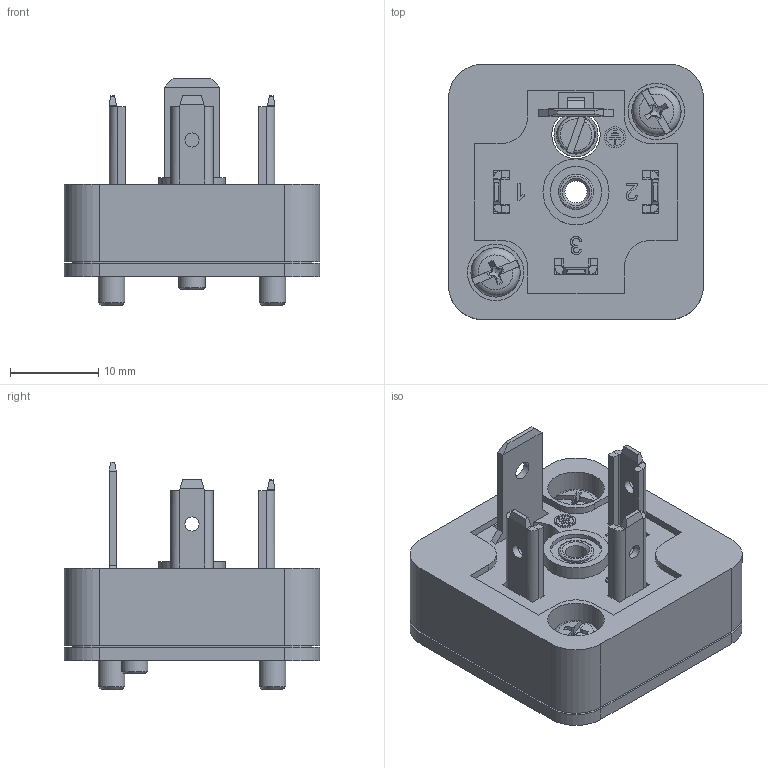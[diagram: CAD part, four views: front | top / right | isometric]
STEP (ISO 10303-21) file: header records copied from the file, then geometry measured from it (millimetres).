
FILE_DESCRIPTION(('Base Sobrepor DIN 43650 3 Polos+Terra'),'2;1');
FILE_NAME('E:\WorkFolder\Bibl\3DWeb\kp_pe_pe3f_step.stp','2023-01-09T14:35:50',('DIE'),('KAP Componentes Eletricos Ltda.'),'Autodesk Inventor 2011','Autodesk Inventor 2011','Direitos reservados. Proibido reproducao, cedencia ou revelacao de conteudo a terceiros, salvo com autorizacao.');
FILE_SCHEMA(('AUTOMOTIVE_DESIGN { 1 0 10303 214 1 1 1 1 }'));
Length unit declared in the file: millimetre
Products named in the file (1): Part11
Bounding box: 29 x 29 x 25.8 mm (x, y, z)
Volume: 5610.4 mm3; surface area: 6451.5 mm2
Topology: 1 solids, 2 shells, 720 faces, 1861 edges, 1172 vertices
Faces by surface type: plane 478, cylinder 131, bspline 56, cone 38, torus 13, sphere 4
Full cylindrical faces by diameter (mm): 1.6 x3, 2 x2, 2.1 x1, 2.4 x2, 2.5 x1, 2.7 x1, 2.729 x2, 3 x3, 3.1 x1, 3.2 x4, 3.6 x1, 3.8 x1, 4 x1, 4.7 x8, 5.8 x1, 6 x1, 6.4 x2, 7.5 x1, 18.5 x1
Entity records: 22830 total; most frequent: CARTESIAN_POINT 5804, ORIENTED_EDGE 3594, DIRECTION 3284, EDGE_CURVE 1797, VECTOR 1240, LINE 1240, VERTEX_POINT 1164, AXIS2_PLACEMENT_3D 1022
